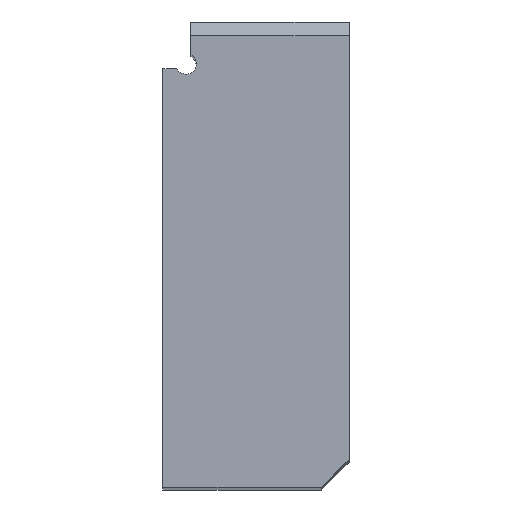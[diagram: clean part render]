
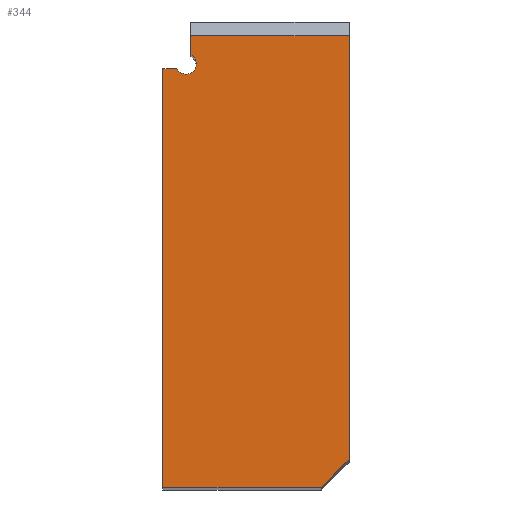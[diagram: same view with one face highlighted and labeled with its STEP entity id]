
A CAD part, top view. The second image highlights one B-rep face of the part: STEP entity #344.
In plain terms, the highlighted planar face has unit normal (0, 0, 1).
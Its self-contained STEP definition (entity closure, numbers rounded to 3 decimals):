
#27 = CARTESIAN_POINT ( 'NONE',  ( -17., 46.556, 80. ) ) ;
#28 = VERTEX_POINT ( 'NONE', #350 ) ;
#35 = VECTOR ( 'NONE', #198, 1000. ) ;
#41 = DIRECTION ( 'NONE',  ( 0., 1., 0. ) ) ;
#43 = CARTESIAN_POINT ( 'NONE',  ( -16.722, 46.278, 80. ) ) ;
#48 = CARTESIAN_POINT ( 'NONE',  ( -3., 0., 80. ) ) ;
#56 = LINE ( 'NONE', #27, #446 ) ;
#58 = CARTESIAN_POINT ( 'NONE',  ( -18.278, 44.722, 80. ) ) ;
#61 = DIRECTION ( 'NONE',  ( 0., 0., 1. ) ) ;
#62 = VERTEX_POINT ( 'NONE', #304 ) ;
#65 = CARTESIAN_POINT ( 'NONE',  ( -17., 46.556, 80. ) ) ;
#75 = ORIENTED_EDGE ( 'NONE', *, *, #653, .F. ) ;
#81 = ORIENTED_EDGE ( 'NONE', *, *, #543, .F. ) ;
#85 = AXIS2_PLACEMENT_3D ( 'NONE', #267, #260, #164 ) ;
#92 = EDGE_CURVE ( 'NONE', #62, #283, #436, .T. ) ;
#95 = CARTESIAN_POINT ( 'NONE',  ( -18.278, 44.722, 80. ) ) ;
#102 = CARTESIAN_POINT ( 'NONE',  ( 0., 0., 80. ) ) ;
#112 = VECTOR ( 'NONE', #550, 1000. ) ;
#118 = DIRECTION ( 'NONE',  ( -0.707, 0.707, 0. ) ) ;
#120 = PLANE ( 'NONE',  #464 ) ;
#121 = LINE ( 'NONE', #239, #491 ) ;
#127 = VECTOR ( 'NONE', #460, 1000. ) ;
#140 = CIRCLE ( 'NONE', #496, 1.1 ) ;
#141 = VERTEX_POINT ( 'NONE', #149 ) ;
#142 = VERTEX_POINT ( 'NONE', #248 ) ;
#149 = CARTESIAN_POINT ( 'NONE',  ( 0., 48.5, 80. ) ) ;
#150 = VECTOR ( 'NONE', #557, 1000. ) ;
#151 = CARTESIAN_POINT ( 'NONE',  ( -17.5, 48.5, 80. ) ) ;
#163 = ORIENTED_EDGE ( 'NONE', *, *, #227, .F. ) ;
#164 = DIRECTION ( 'NONE',  ( -1., 0., 0. ) ) ;
#193 = CARTESIAN_POINT ( 'NONE',  ( -20., 0., 80. ) ) ;
#198 = DIRECTION ( 'NONE',  ( 1., 0., 0. ) ) ;
#216 = DIRECTION ( 'NONE',  ( -1., 0., 0. ) ) ;
#217 = EDGE_CURVE ( 'NONE', #441, #537, #140, .T. ) ;
#227 = EDGE_CURVE ( 'NONE', #501, #237, #235, .T. ) ;
#231 = ORIENTED_EDGE ( 'NONE', *, *, #392, .F. ) ;
#235 = LINE ( 'NONE', #65, #242 ) ;
#237 = VERTEX_POINT ( 'NONE', #519 ) ;
#239 = CARTESIAN_POINT ( 'NONE',  ( -20., 0., 80. ) ) ;
#242 = VECTOR ( 'NONE', #118, 1000. ) ;
#244 = CARTESIAN_POINT ( 'NONE',  ( 0., 50., 80. ) ) ;
#248 = CARTESIAN_POINT ( 'NONE',  ( -17., 48.5, 80. ) ) ;
#257 = CARTESIAN_POINT ( 'NONE',  ( 0., 3., 80. ) ) ;
#258 = LINE ( 'NONE', #151, #632 ) ;
#260 = DIRECTION ( 'NONE',  ( 0., 0., 1. ) ) ;
#261 = ORIENTED_EDGE ( 'NONE', *, *, #603, .T. ) ;
#267 = CARTESIAN_POINT ( 'NONE',  ( -17.5, 45.5, 80. ) ) ;
#271 = DIRECTION ( 'NONE',  ( 0., 0., -1. ) ) ;
#281 = ORIENTED_EDGE ( 'NONE', *, *, #92, .T. ) ;
#283 = VERTEX_POINT ( 'NONE', #257 ) ;
#298 = DIRECTION ( 'NONE',  ( 0.707, -0.707, 0. ) ) ;
#304 = CARTESIAN_POINT ( 'NONE',  ( -3., 0., 80. ) ) ;
#306 = LINE ( 'NONE', #604, #35 ) ;
#326 = ORIENTED_EDGE ( 'NONE', *, *, #589, .F. ) ;
#337 = LINE ( 'NONE', #244, #112 ) ;
#344 = ADVANCED_FACE ( 'NONE', ( #481 ), #120, .F. ) ;
#350 = CARTESIAN_POINT ( 'NONE',  ( -20., 45., 80. ) ) ;
#357 = DIRECTION ( 'NONE',  ( -1., 0., 0. ) ) ;
#370 = CARTESIAN_POINT ( 'NONE',  ( -17.5, 45.5, 80. ) ) ;
#371 = DIRECTION ( 'NONE',  ( 0., 1., 0. ) ) ;
#392 = EDGE_CURVE ( 'NONE', #237, #142, #56, .T. ) ;
#399 = VECTOR ( 'NONE', #298, 1000. ) ;
#427 = LINE ( 'NONE', #102, #150 ) ;
#436 = LINE ( 'NONE', #48, #127 ) ;
#441 = VERTEX_POINT ( 'NONE', #95 ) ;
#446 = VECTOR ( 'NONE', #371, 1000. ) ;
#450 = VERTEX_POINT ( 'NONE', #193 ) ;
#459 = CARTESIAN_POINT ( 'NONE',  ( -18.556, 45., 80. ) ) ;
#460 = DIRECTION ( 'NONE',  ( 0.707, 0.707, 0. ) ) ;
#464 = AXIS2_PLACEMENT_3D ( 'NONE', #524, #271, #630 ) ;
#468 = CARTESIAN_POINT ( 'NONE',  ( -16.4, 45.5, 80. ) ) ;
#481 = FACE_OUTER_BOUND ( 'NONE', #646, .T. ) ;
#482 = EDGE_CURVE ( 'NONE', #141, #283, #337, .T. ) ;
#491 = VECTOR ( 'NONE', #41, 1000. ) ;
#496 = AXIS2_PLACEMENT_3D ( 'NONE', #370, #61, #216 ) ;
#501 = VERTEX_POINT ( 'NONE', #43 ) ;
#519 = CARTESIAN_POINT ( 'NONE',  ( -17., 46.556, 80. ) ) ;
#524 = CARTESIAN_POINT ( 'NONE',  ( -17.5, 45.5, 80. ) ) ;
#530 = LINE ( 'NONE', #58, #399 ) ;
#537 = VERTEX_POINT ( 'NONE', #468 ) ;
#543 = EDGE_CURVE ( 'NONE', #450, #28, #121, .T. ) ;
#550 = DIRECTION ( 'NONE',  ( 0., -1., 0. ) ) ;
#553 = CIRCLE ( 'NONE', #85, 1.1 ) ;
#557 = DIRECTION ( 'NONE',  ( -1., 0., 0. ) ) ;
#558 = EDGE_CURVE ( 'NONE', #28, #595, #306, .T. ) ;
#583 = ORIENTED_EDGE ( 'NONE', *, *, #482, .F. ) ;
#587 = ORIENTED_EDGE ( 'NONE', *, *, #558, .F. ) ;
#589 = EDGE_CURVE ( 'NONE', #595, #441, #530, .T. ) ;
#595 = VERTEX_POINT ( 'NONE', #459 ) ;
#603 = EDGE_CURVE ( 'NONE', #141, #142, #258, .T. ) ;
#604 = CARTESIAN_POINT ( 'NONE',  ( -20., 45., 80. ) ) ;
#630 = DIRECTION ( 'NONE',  ( -1., 0., 0. ) ) ;
#632 = VECTOR ( 'NONE', #357, 1000. ) ;
#642 = EDGE_CURVE ( 'NONE', #62, #450, #427, .T. ) ;
#646 = EDGE_LOOP ( 'NONE', ( #656, #281, #583, #261, #231, #163, #75, #651, #326, #587, #81 ) ) ;
#651 = ORIENTED_EDGE ( 'NONE', *, *, #217, .F. ) ;
#653 = EDGE_CURVE ( 'NONE', #537, #501, #553, .T. ) ;
#656 = ORIENTED_EDGE ( 'NONE', *, *, #642, .F. ) ;
